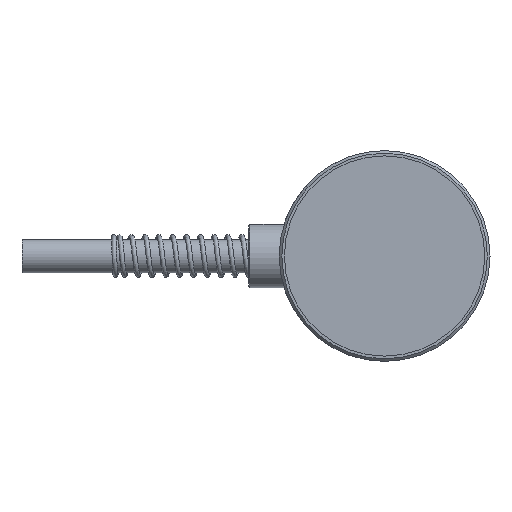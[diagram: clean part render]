
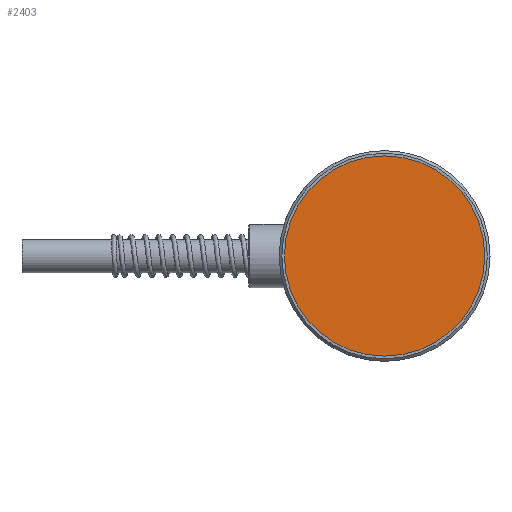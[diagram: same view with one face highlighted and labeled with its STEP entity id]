
A CAD part, left-side view. The second image highlights one B-rep face of the part: STEP entity #2403.
In plain terms, the highlighted planar face has unit normal (-1, 0, 0).
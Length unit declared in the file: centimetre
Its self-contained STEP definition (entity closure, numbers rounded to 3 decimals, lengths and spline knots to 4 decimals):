
#791=CIRCLE('',#2543,0.95);
#866=VERTEX_POINT('',#3136);
#1238=EDGE_CURVE('',#866,#866,#791,.T.);
#1538=ORIENTED_EDGE('',*,*,#1238,.T.);
#2087=EDGE_LOOP('',(#1538));
#2247=FACE_BOUND('',#2087,.T.);
#2403=ADVANCED_FACE('',(#2247),#18819,.T.);
#2543=AXIS2_PLACEMENT_3D('',#3135,#2737,#2738);
#2545=AXIS2_PLACEMENT_3D('',#3139,#2741,$);
#2737=DIRECTION('',(-1.,0.,0.));
#2738=DIRECTION('',(0.,0.,0.95));
#2741=DIRECTION('',(-1.,0.,0.));
#3135=CARTESIAN_POINT('',(0.05,0.,0.));
#3136=CARTESIAN_POINT('',(0.05,0.,0.95));
#3139=CARTESIAN_POINT('',(0.05,0.,0.));
#18819=PLANE('',#2545);
